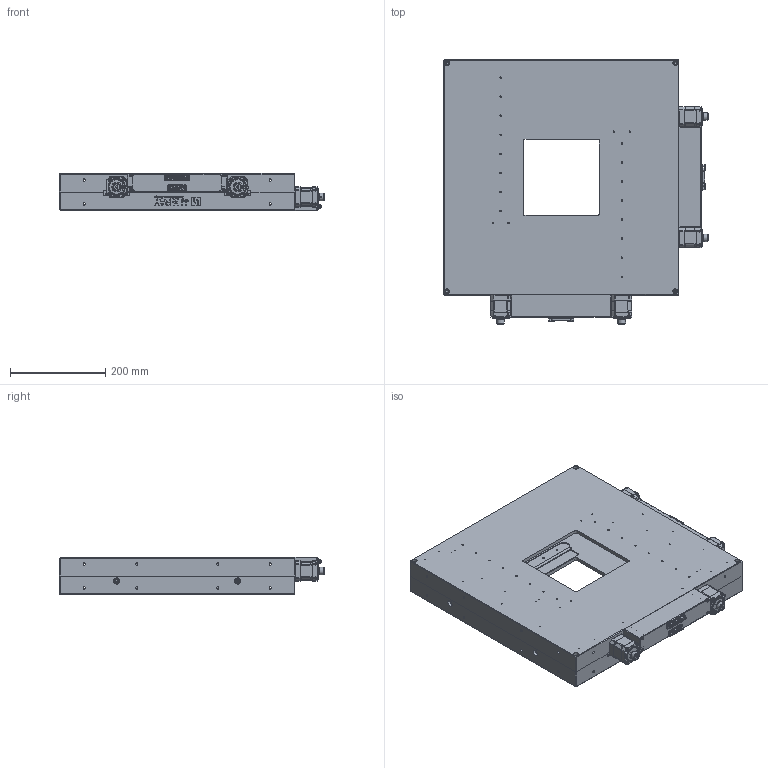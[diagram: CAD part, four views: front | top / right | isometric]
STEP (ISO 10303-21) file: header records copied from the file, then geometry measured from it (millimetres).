
FILE_DESCRIPTION(/* description */ ('IB C160 Air slit'),/* implementation_level */ '2;1');
FILE_NAME(/* name */ 'C:\WF\Designs\Slitter\12052 IB-C160-air\Stp\12053002_web.stp',/* time_stamp */ '2019-02-06T14:39:11+01:00',/* author */ ('Henning'),/* organization */ ('JJ X-Ray A/S'),/* preprocessor_version */ 'ST-DEVELOPER v16.13',/* originating_system */ 'Autodesk Inventor 2018',/* authorisation */ 'JJ X-Ray A/S');
FILE_SCHEMA (('AUTOMOTIVE_DESIGN { 1 0 10303 214 3 1 1 }'));
Products named in the file (19): 12053002_for step; 12053000_for step; 1205241; 12053001_for step; 1205240; PK243-0; 1205216a3rev1; Skalaknap-A; skalaknap del3; skalaknap; skalaknap del2; skalaknap del1; DBConnector; DIN 7985 (Z) - M3x30-Z; 14067019rev1; 1205233a3; DIN 912 - M2,5 x 12; DBConnector_1; D-Connector screw
Assembly tree (70 placements, depth 4):
  12053002_for step
    12053000_for step
      1205241
      PK243-0  x2
      1205216a3rev1
      Skalaknap-A  x2
        skalaknap del3
        skalaknap
        skalaknap del2
        skalaknap del1
      DBConnector
      D-Connector screw  x4
      DIN 7985 (Z) - M3x30-Z  x12
      14067019rev1  x2
      1205233a3  x2
      DIN 912 - M2,5 x 12  x4
      DBConnector_1
    12053001_for step
      1205240
      PK243-0  x2
      1205216a3rev1
      Skalaknap-A  x2
        skalaknap del3
        skalaknap
        skalaknap del2
        skalaknap del1
      DBConnector
      D-Connector screw  x4
      DIN 7985 (Z) - M3x30-Z  x12
      14067019rev1  x2
      1205233a3  x2
      DIN 912 - M2,5 x 12  x4
      DBConnector_1
Bounding box: 556 x 556 x 78 mm (x, y, z)
Volume: 4839599.6 mm3; surface area: 1392001.3 mm2
Topology: 76 solids, 76 shells, 8284 faces, 22040 edges, 14416 vertices
Faces by surface type: plane 4638, bspline 1678, cylinder 1312, cone 412, torus 140, sphere 104
Full cylindrical faces by diameter (mm): 0.991 x80, 1.567 x16, 2.013 x8, 2.156 x8, 2.459 x88, 2.487 x8, 2.5 x8, 2.75 x24, 2.8 x8, 2.82 x8, 3 x24, 3.048 x8, 3.242 x32, 3.5 x8, 4 x4, 4.5 x24, 4.917 x28, 5 x36, 6.5 x20, 10 x4, 10.5 x4, 13 x4, 15 x4, 16 x4, 20 x4, 22 x4, 30 x4, 36 x4
Entity records: 106093 total; most frequent: CARTESIAN_POINT 32187, ORIENTED_EDGE 15714, DIRECTION 12685, EDGE_CURVE 7857, VERTEX_POINT 5321, LINE 4975, VECTOR 4975, EDGE_LOOP 3970
